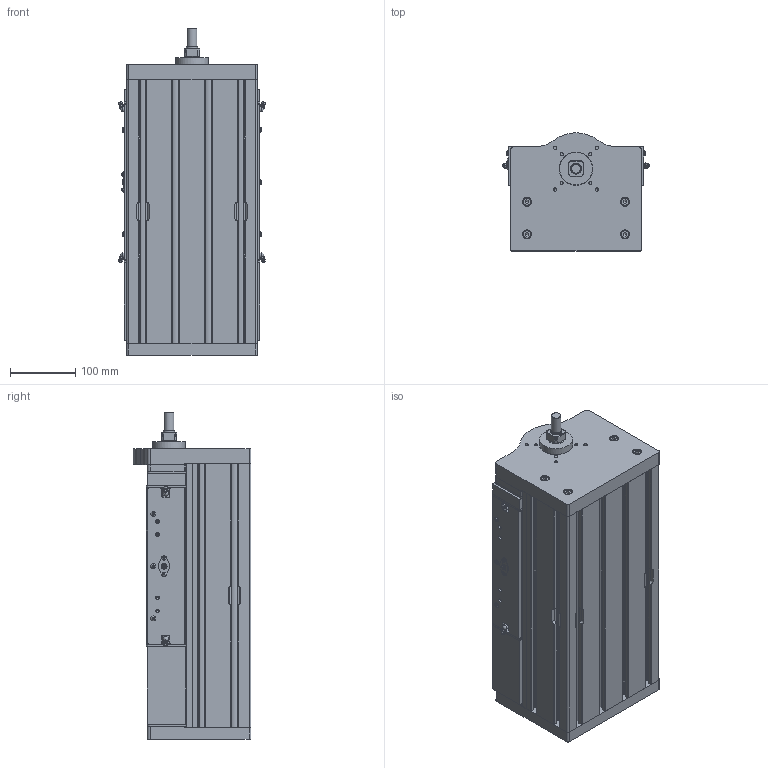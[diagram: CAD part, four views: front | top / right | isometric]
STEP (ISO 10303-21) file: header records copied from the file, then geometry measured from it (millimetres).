
FILE_DESCRIPTION(/* description */ ('Asse VU-K200SE-25H-25-S'),/* implementation_level */ '2;1');
FILE_NAME(/* name */ 'VU-K200SE-25H-25-S-CLIENTE.stp',/* time_stamp */ '2025-02-06T09:31:38+01:00',/* author */ ('davide.cavedon'),/* organization */ (''),/* preprocessor_version */ 'ST-DEVELOPER v20',/* originating_system */ 'Autodesk Inventor 2024',/* authorisation */ '');
FILE_SCHEMA (('CONFIG_CONTROL_DESIGN'));
Products named in the file (5): VU-K200SE-25H-25-S-CLIENTE; C_VU-K200SE-25H-25-S-CLIENTE-001; C_VU-K200SE-25H-25-N-CLIENTE-004; C_VU-K200SE-25H-25-N-CLIENTE-003; C_VU-K200SE-25H-25-N-CLIENTE-002
Assembly tree (4 placements, depth 2):
  VU-K200SE-25H-25-S-CLIENTE
    C_VU-K200SE-25H-25-S-CLIENTE-001
    C_VU-K200SE-25H-25-N-CLIENTE-004
    C_VU-K200SE-25H-25-N-CLIENTE-003
    C_VU-K200SE-25H-25-N-CLIENTE-002
Bounding box: 224.02 x 180.5 x 500 mm (x, y, z)
Volume: 12824726.7 mm3; surface area: 1236850.2 mm2
Topology: 10 solids, 95 shells, 2776 faces, 7257 edges, 4741 vertices
Faces by surface type: plane 1645, cylinder 680, cone 241, torus 102, bspline 102, sphere 6
Full cylindrical faces by diameter (mm): 0.5 x4, 1 x8, 2 x5, 2.459 x2, 2.5 x2, 3 x10, 3.242 x30, 3.5 x2, 4 x6, 4.134 x8, 4.25 x2, 4.3 x2, 4.5 x9, 4.917 x24, 4.95 x2, 5 x14, 5.15 x2, 5.5 x8, 5.7 x2, 5.85 x2, 6 x40, 6.6 x24, 6.647 x28, 6.9 x4, 7 x6, 7.3 x8, 7.6 x8, 7.847 x4, 8 x10, 8.15 x2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
Entity records: 97967 total; most frequent: CARTESIAN_POINT 27789, ORIENTED_EDGE 14202, DIRECTION 13906, EDGE_CURVE 7159, VERTEX_POINT 4741, AXIS2_PLACEMENT_3D 4714, LINE 4478, VECTOR 4478
